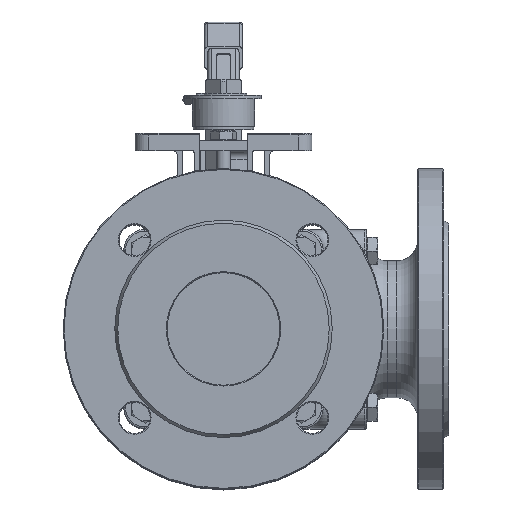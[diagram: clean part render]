
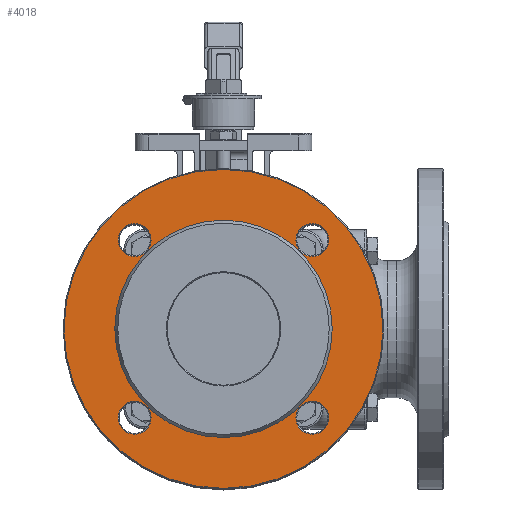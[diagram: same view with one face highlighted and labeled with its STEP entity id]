
A CAD part, top view. The second image highlights one B-rep face of the part: STEP entity #4018.
In plain terms, the highlighted planar face has unit normal (0, 0, 1).
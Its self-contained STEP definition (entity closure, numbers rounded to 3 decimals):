
#4018=ADVANCED_FACE('',(#11831,#11833,#11835,#11837,#11839,#11841),#11843,.T.);
#11831=FACE_BOUND('',#11832,.T.);
#11832=EDGE_LOOP('',(#17627));
#11833=FACE_BOUND('',#11834,.T.);
#11834=EDGE_LOOP('',(#17628));
#11835=FACE_BOUND('',#11836,.T.);
#11836=EDGE_LOOP('',(#17629));
#11837=FACE_BOUND('',#11838,.T.);
#11838=EDGE_LOOP('',(#17630));
#11839=FACE_BOUND('',#11840,.T.);
#11840=EDGE_LOOP('',(#17631));
#11841=FACE_BOUND('',#11842,.T.);
#11842=EDGE_LOOP('',(#17632));
#11843=PLANE('',#11844);
#11844=AXIS2_PLACEMENT_3D('',#11845,#11846,#11847);
#11845=CARTESIAN_POINT('',(0.,0.,127.));
#11846=DIRECTION('',(0.,0.,1.));
#11847=DIRECTION('',(1.,0.,0.));
#17627=ORIENTED_EDGE('',*,*,#20406,.F.);
#17628=ORIENTED_EDGE('',*,*,#20339,.F.);
#17629=ORIENTED_EDGE('',*,*,#20337,.F.);
#17630=ORIENTED_EDGE('',*,*,#20407,.F.);
#17631=ORIENTED_EDGE('',*,*,#20338,.F.);
#17632=ORIENTED_EDGE('',*,*,#20336,.F.);
#20336=EDGE_CURVE('',#23524,#23524,#23525,.T.);
#20337=EDGE_CURVE('',#23526,#23526,#23527,.T.);
#20338=EDGE_CURVE('',#23528,#23528,#23529,.T.);
#20339=EDGE_CURVE('',#23530,#23530,#23531,.T.);
#20406=EDGE_CURVE('',#23638,#23638,#23639,.T.);
#20407=EDGE_CURVE('',#23640,#23640,#23641,.T.);
#23524=VERTEX_POINT('',#39837);
#23525=CIRCLE('',#39838,9.5);
#23526=VERTEX_POINT('',#39842);
#23527=CIRCLE('',#39843,9.5);
#23528=VERTEX_POINT('',#39847);
#23529=CIRCLE('',#39848,9.5);
#23530=VERTEX_POINT('',#39852);
#23531=CIRCLE('',#39853,9.5);
#23638=VERTEX_POINT('',#40406);
#23639=CIRCLE('',#40407,92.);
#23640=VERTEX_POINT('',#40411);
#23641=CIRCLE('',#40412,62.732);
#39837=CARTESIAN_POINT('',(-41.765,-51.265,127.));
#39838=AXIS2_PLACEMENT_3D('',#39839,#39840,#39841);
#39839=CARTESIAN_POINT('',(-51.265,-51.265,127.));
#39840=DIRECTION('',(0.,0.,1.));
#39841=DIRECTION('',(1.,0.,0.));
#39842=CARTESIAN_POINT('',(-41.765,51.265,127.));
#39843=AXIS2_PLACEMENT_3D('',#39844,#39845,#39846);
#39844=CARTESIAN_POINT('',(-51.265,51.265,127.));
#39845=DIRECTION('',(0.,0.,1.));
#39846=DIRECTION('',(1.,0.,0.));
#39847=CARTESIAN_POINT('',(60.765,51.265,127.));
#39848=AXIS2_PLACEMENT_3D('',#39849,#39850,#39851);
#39849=CARTESIAN_POINT('',(51.265,51.265,127.));
#39850=DIRECTION('',(0.,0.,1.));
#39851=DIRECTION('',(1.,0.,0.));
#39852=CARTESIAN_POINT('',(60.765,-51.265,127.));
#39853=AXIS2_PLACEMENT_3D('',#39854,#39855,#39856);
#39854=CARTESIAN_POINT('',(51.265,-51.265,127.));
#39855=DIRECTION('',(0.,0.,1.));
#39856=DIRECTION('',(1.,0.,0.));
#40406=CARTESIAN_POINT('',(92.,0.,127.));
#40407=AXIS2_PLACEMENT_3D('',#40408,#40409,#40410);
#40408=CARTESIAN_POINT('',(0.,0.,127.));
#40409=DIRECTION('',(0.,0.,-1.));
#40410=DIRECTION('',(1.,0.,0.));
#40411=CARTESIAN_POINT('',(62.732,0.,127.));
#40412=AXIS2_PLACEMENT_3D('',#40413,#40414,#40415);
#40413=CARTESIAN_POINT('',(0.,0.,127.));
#40414=DIRECTION('',(0.,0.,1.));
#40415=DIRECTION('',(1.,0.,0.));
